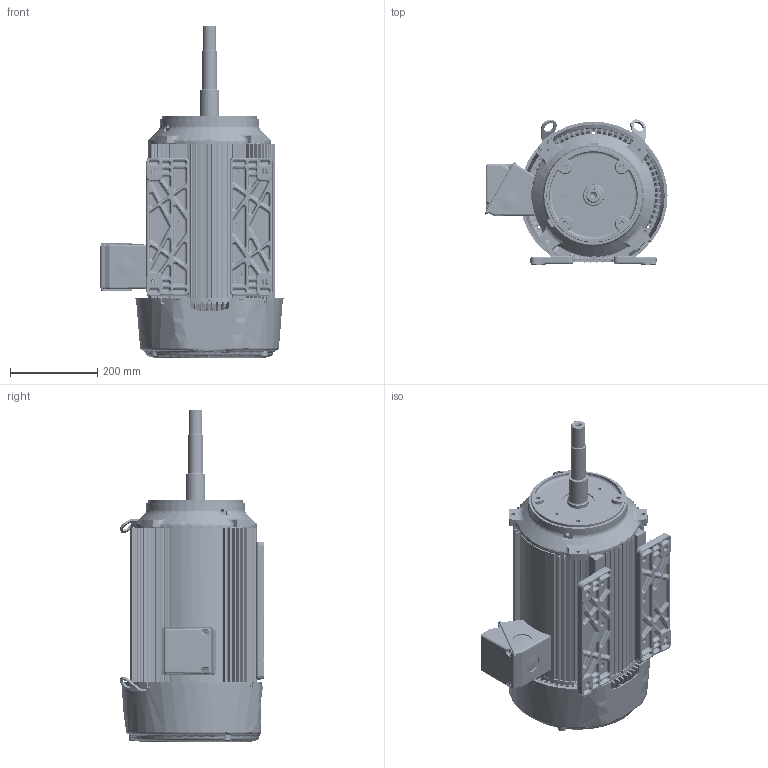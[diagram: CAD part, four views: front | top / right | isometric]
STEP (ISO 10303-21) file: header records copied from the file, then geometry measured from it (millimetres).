
FILE_DESCRIPTION((''),'2;1');
FILE_NAME('CCP_CFACE_ASM','2014-07-02T',('emd2341'),('Nidec Motor Corporation'),'PRO/ENGINEER BY PARAMETRIC TECHNOLOGY CORPORATION, 2013150','PRO/ENGINEER BY PARAMETRIC TECHNOLOGY CORPORATION, 2013150','');
FILE_SCHEMA(('CONFIG_CONTROL_DESIGN'));
Length unit declared in the file: inch
Products named in the file (16): 0375096_AF0; 0364229-OBB; 0375099-BKT_AF0; 0360239_AF0; 0375600_ASM; 0364285; 0362104; 0362103; 0374700-BKT_AF0; 0378229_AF0; 1001043_ASM; 0183520; 0373874; 0364236; 0369733; CCP_CFACE_ASM
Assembly tree (16 placements, depth 3):
  CCP_CFACE_ASM
    0375096_AF0
    0364229-OBB
    0375600_ASM
      0375099-BKT_AF0
      0360239_AF0
    0364285
    0362104
    0362103
    1001043_ASM
      0374700-BKT_AF0
      0378229_AF0
    0183520
    0373874
    0364236
    0369733  x2
Bounding box: 420.11 x 332.48 x 762.1 mm (x, y, z)
Volume: 7933482.3 mm3; surface area: 2534214.5 mm2
Topology: 16 solids, 16 shells, 5800 faces, 14441 edges, 8641 vertices
Faces by surface type: bspline 2050, plane 1343, cylinder 1220, cone 554, torus 424, sphere 189, extrusion 20
Entity records: 259374 total; most frequent: CARTESIAN_POINT 137005, ORIENTED_EDGE 28714, DIRECTION 20845, EDGE_CURVE 14357, VERTEX_POINT 8617, AXIS2_PLACEMENT_3D 8152, EDGE_LOOP 6010, FACE_OUTER_BOUND 5782
